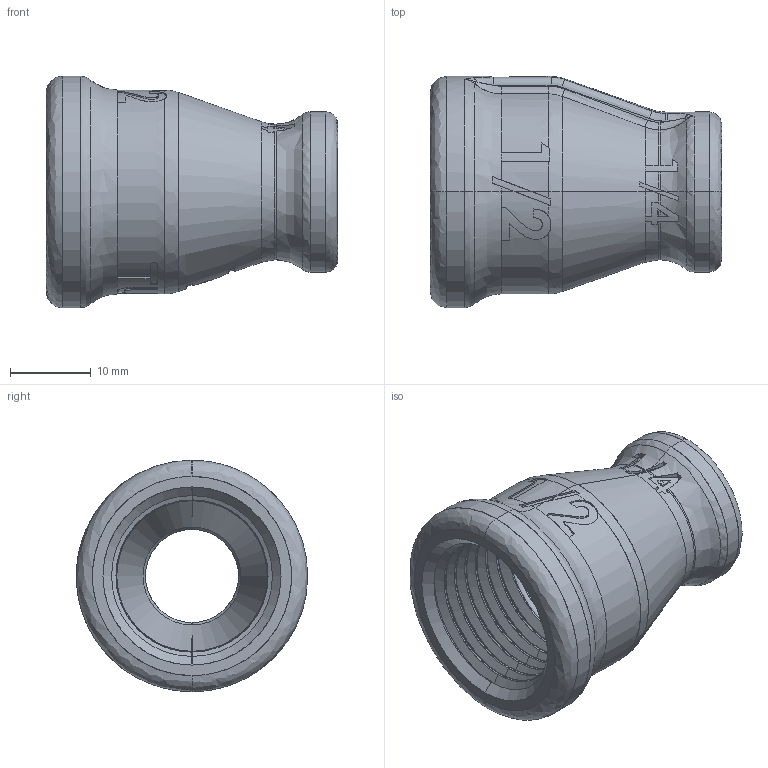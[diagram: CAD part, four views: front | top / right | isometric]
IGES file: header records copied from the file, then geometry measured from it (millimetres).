
Start section: SolidWorks IGES file using analytic representation for surfaces
Global section: file name: C:\Users\Joel Rosa\Desktop\Tubulação\12-32-OK\12-32-025.IGS; native system: SolidWorks 2011; preprocessor: SolidWorks 2011; author: Joel Rosa; date: 121208.223750; units: millimetre
Bounding box: 36 x 28.6 x 28.6 mm (x, y, z)
Surface area: 5987.1 mm2 (no closed solid volume)
Topology: 0 solids, 0 shells, 378 faces, 2998 edges, 2994 vertices
Faces by surface type: bspline 265, revolution 113
